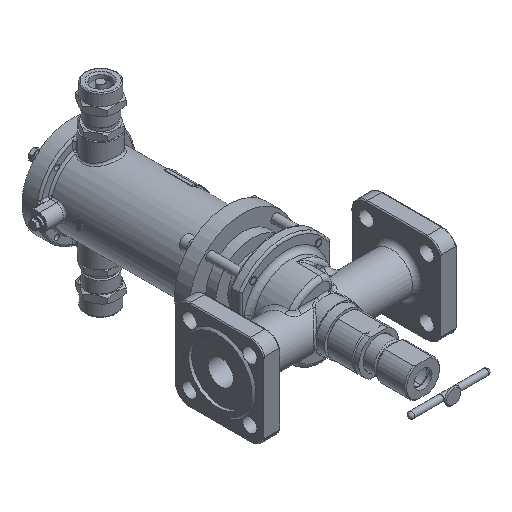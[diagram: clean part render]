
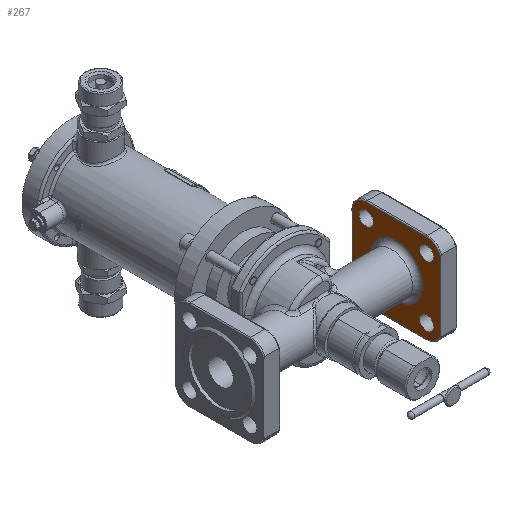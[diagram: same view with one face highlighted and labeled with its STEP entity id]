
A CAD part, isometric view. The second image highlights one B-rep face of the part: STEP entity #267.
In plain terms, the highlighted planar face has unit normal (-1, 0, 0).
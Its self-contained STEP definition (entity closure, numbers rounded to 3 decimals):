
#267=ADVANCED_FACE('',(#6980,#6982,#6984,#6986,#6988,#6990),#6992,.T.);
#6980=FACE_BOUND('',#6981,.T.);
#6981=EDGE_LOOP('',(#22029));
#6982=FACE_BOUND('',#6983,.T.);
#6983=EDGE_LOOP('',(#22030));
#6984=FACE_BOUND('',#6985,.T.);
#6985=EDGE_LOOP('',(#22031));
#6986=FACE_BOUND('',#6987,.T.);
#6987=EDGE_LOOP('',(#22032));
#6988=FACE_BOUND('',#6989,.T.);
#6989=EDGE_LOOP('',(#22033));
#6990=FACE_OUTER_BOUND('',#6991,.T.);
#6991=EDGE_LOOP('',(#22034,#22035,#22036,#22037,#22038,#22039,#22040,#22041));
#6992=PLANE('',#6993);
#6993=AXIS2_PLACEMENT_3D('',#6994,#6995,#6996);
#6994=CARTESIAN_POINT('',(80.,0.,0.));
#6995=DIRECTION('',(-1.,0.,0.));
#6996=DIRECTION('',(0.,1.,0.));
#22029=ORIENTED_EDGE('',*,*,#33630,.F.);
#22030=ORIENTED_EDGE('',*,*,#33681,.T.);
#22031=ORIENTED_EDGE('',*,*,#33682,.T.);
#22032=ORIENTED_EDGE('',*,*,#33683,.T.);
#22033=ORIENTED_EDGE('',*,*,#33684,.T.);
#22034=ORIENTED_EDGE('',*,*,#33685,.T.);
#22035=ORIENTED_EDGE('',*,*,#33686,.T.);
#22036=ORIENTED_EDGE('',*,*,#33687,.T.);
#22037=ORIENTED_EDGE('',*,*,#33688,.T.);
#22038=ORIENTED_EDGE('',*,*,#33689,.T.);
#22039=ORIENTED_EDGE('',*,*,#33690,.T.);
#22040=ORIENTED_EDGE('',*,*,#33691,.T.);
#22041=ORIENTED_EDGE('',*,*,#33692,.T.);
#33630=EDGE_CURVE('',#38737,#38737,#38739,.T.);
#33681=EDGE_CURVE('',#38820,#38820,#38821,.T.);
#33682=EDGE_CURVE('',#38822,#38822,#38823,.T.);
#33683=EDGE_CURVE('',#38824,#38824,#38825,.T.);
#33684=EDGE_CURVE('',#38826,#38826,#38827,.T.);
#33685=EDGE_CURVE('',#38828,#38829,#38830,.F.);
#33686=EDGE_CURVE('',#38829,#38831,#38832,.F.);
#33687=EDGE_CURVE('',#38831,#38833,#38834,.T.);
#33688=EDGE_CURVE('',#38833,#38835,#38836,.F.);
#33689=EDGE_CURVE('',#38835,#38837,#38838,.T.);
#33690=EDGE_CURVE('',#38837,#38839,#38840,.F.);
#33691=EDGE_CURVE('',#38839,#38841,#38842,.T.);
#33692=EDGE_CURVE('',#38841,#38828,#38843,.F.);
#38737=VERTEX_POINT('',#48840);
#38739=CIRCLE('',#48845,26.);
#38820=VERTEX_POINT('',#49414);
#38821=CIRCLE('',#49415,7.);
#38822=VERTEX_POINT('',#49419);
#38823=CIRCLE('',#49420,7.);
#38824=VERTEX_POINT('',#49424);
#38825=CIRCLE('',#49425,7.);
#38826=VERTEX_POINT('',#49429);
#38827=CIRCLE('',#49430,7.);
#38828=VERTEX_POINT('',#49434);
#38829=VERTEX_POINT('',#49435);
#38830=LINE('',#49436,#49437);
#38831=VERTEX_POINT('',#49439);
#38832=CIRCLE('',#49440,14.);
#38833=VERTEX_POINT('',#49444);
#38834=LINE('',#49445,#49446);
#38835=VERTEX_POINT('',#49448);
#38836=CIRCLE('',#49449,14.);
#38837=VERTEX_POINT('',#49453);
#38838=LINE('',#49454,#49455);
#38839=VERTEX_POINT('',#49457);
#38840=CIRCLE('',#49458,14.);
#38841=VERTEX_POINT('',#49462);
#38842=LINE('',#49463,#49464);
#38843=CIRCLE('',#49466,14.);
#48840=CARTESIAN_POINT('',(80.,26.,0.));
#48845=AXIS2_PLACEMENT_3D('',#48846,#48847,#48848);
#48846=CARTESIAN_POINT('',(80.,0.,0.));
#48847=DIRECTION('',(-1.,0.,0.));
#48848=DIRECTION('',(0.,1.,0.));
#49414=CARTESIAN_POINT('',(80.,30.052,37.052));
#49415=AXIS2_PLACEMENT_3D('',#49416,#49417,#49418);
#49416=CARTESIAN_POINT('',(80.,30.052,30.052));
#49417=DIRECTION('',(1.,-0.,0.));
#49418=DIRECTION('',(0.,0.,1.));
#49419=CARTESIAN_POINT('',(80.,-30.052,37.052));
#49420=AXIS2_PLACEMENT_3D('',#49421,#49422,#49423);
#49421=CARTESIAN_POINT('',(80.,-30.052,30.052));
#49422=DIRECTION('',(1.,-0.,0.));
#49423=DIRECTION('',(0.,0.,1.));
#49424=CARTESIAN_POINT('',(80.,-30.052,-23.052));
#49425=AXIS2_PLACEMENT_3D('',#49426,#49427,#49428);
#49426=CARTESIAN_POINT('',(80.,-30.052,-30.052));
#49427=DIRECTION('',(1.,-0.,0.));
#49428=DIRECTION('',(0.,0.,1.));
#49429=CARTESIAN_POINT('',(80.,30.052,-23.052));
#49430=AXIS2_PLACEMENT_3D('',#49431,#49432,#49433);
#49431=CARTESIAN_POINT('',(80.,30.052,-30.052));
#49432=DIRECTION('',(1.,-0.,0.));
#49433=DIRECTION('',(0.,0.,1.));
#49434=CARTESIAN_POINT('',(80.,-44.,-30.));
#49435=CARTESIAN_POINT('',(80.,-44.,30.));
#49436=CARTESIAN_POINT('',(80.,-44.,30.));
#49437=VECTOR('',#49438,1.);
#49438=DIRECTION('',(0.,0.,-1.));
#49439=CARTESIAN_POINT('',(80.,-30.,44.));
#49440=AXIS2_PLACEMENT_3D('',#49441,#49442,#49443);
#49441=CARTESIAN_POINT('',(80.,-30.,30.));
#49442=DIRECTION('',(1.,0.,0.));
#49443=DIRECTION('',(0.,0.,1.));
#49444=CARTESIAN_POINT('',(80.,30.,44.));
#49445=CARTESIAN_POINT('',(80.,-30.,44.));
#49446=VECTOR('',#49447,1.);
#49447=DIRECTION('',(0.,1.,0.));
#49448=CARTESIAN_POINT('',(80.,44.,30.));
#49449=AXIS2_PLACEMENT_3D('',#49450,#49451,#49452);
#49450=CARTESIAN_POINT('',(80.,30.,30.));
#49451=DIRECTION('',(1.,0.,0.));
#49452=DIRECTION('',(0.,1.,0.));
#49453=CARTESIAN_POINT('',(80.,44.,-30.));
#49454=CARTESIAN_POINT('',(80.,44.,30.));
#49455=VECTOR('',#49456,1.);
#49456=DIRECTION('',(0.,0.,-1.));
#49457=CARTESIAN_POINT('',(80.,30.,-44.));
#49458=AXIS2_PLACEMENT_3D('',#49459,#49460,#49461);
#49459=CARTESIAN_POINT('',(80.,30.,-30.));
#49460=DIRECTION('',(1.,0.,0.));
#49461=DIRECTION('',(0.,0.,-1.));
#49462=CARTESIAN_POINT('',(80.,-30.,-44.));
#49463=CARTESIAN_POINT('',(80.,30.,-44.));
#49464=VECTOR('',#49465,1.);
#49465=DIRECTION('',(0.,-1.,0.));
#49466=AXIS2_PLACEMENT_3D('',#49467,#49468,#49469);
#49467=CARTESIAN_POINT('',(80.,-30.,-30.));
#49468=DIRECTION('',(1.,0.,0.));
#49469=DIRECTION('',(0.,-1.,0.));
